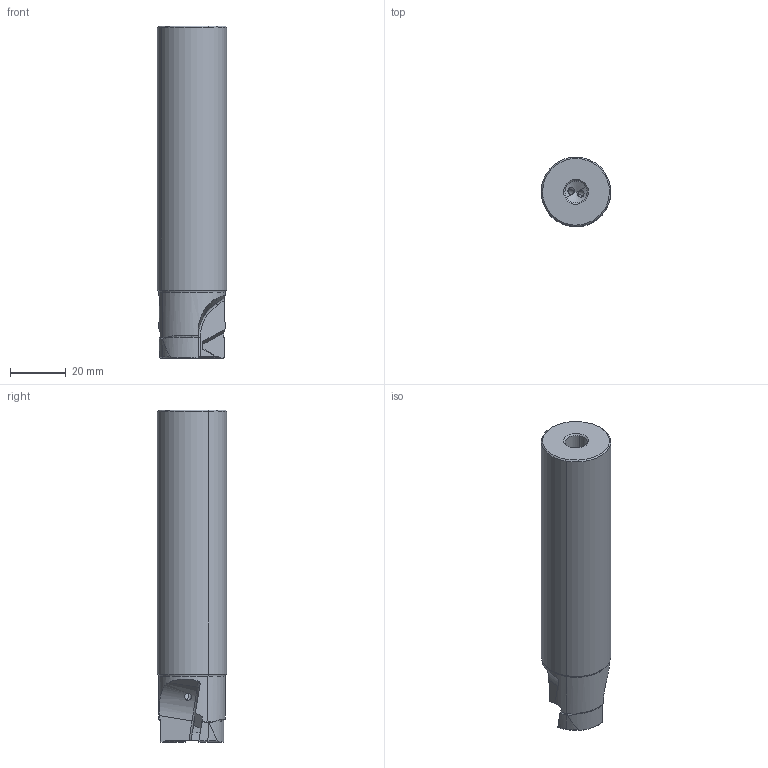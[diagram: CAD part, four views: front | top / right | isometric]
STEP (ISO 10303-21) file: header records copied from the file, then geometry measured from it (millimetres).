
FILE_DESCRIPTION(('CATIA V5 STEP'),'2;1');
FILE_NAME('I:\isr\design\admin8\users\yousef_k\3106412-D.stp','2012-11-14T05:33:18+00:00',('none'),('none'),'CATIA Version 5 Release 21 SP 3 (IN-10)','CATIA V5 STEP AP214','none');
FILE_SCHEMA(('AUTOMOTIVE_DESIGN { 1 0 10303 214 1 1 1 1 }'));
Length unit declared in the file: millimetre
Products named in the file (1): 61066928_0  HM390 ETP D25-2-C25-10
Bounding box: 24.99 x 24.99 x 119.4 mm (x, y, z)
Volume: 48860.5 mm3; surface area: 12754.9 mm2
Topology: 1 solids, 1 shells, 72 faces, 186 edges, 115 vertices
Faces by surface type: torus 22, plane 18, cylinder 18, cone 14
Entity records: 2439 total; most frequent: CARTESIAN_POINT 864, ORIENTED_EDGE 368, DIRECTION 236, EDGE_CURVE 184, AXIS2_PLACEMENT_3D 120, VERTEX_POINT 115, EDGE_LOOP 77, ADVANCED_FACE 72
